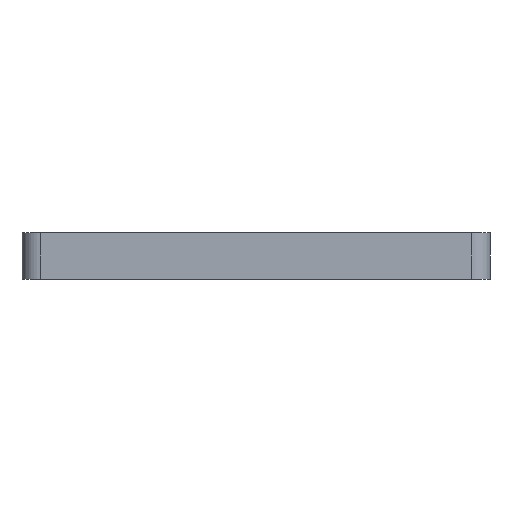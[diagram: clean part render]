
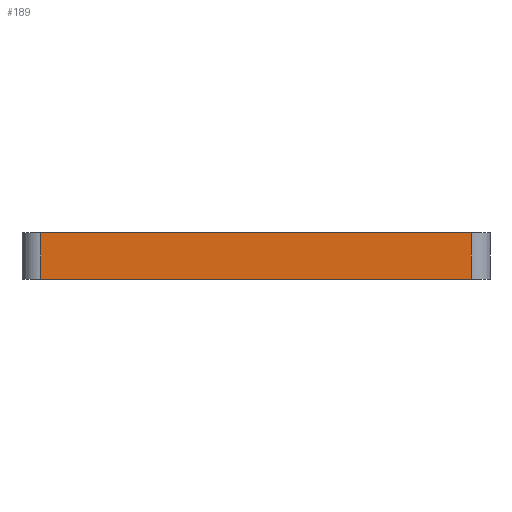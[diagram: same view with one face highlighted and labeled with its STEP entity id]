
A CAD part, front view. The second image highlights one B-rep face of the part: STEP entity #189.
In plain terms, the highlighted planar face has unit normal (0, -1, 0).
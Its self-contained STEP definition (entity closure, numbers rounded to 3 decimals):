
#18=CARTESIAN_POINT('',(4.0,0.0,0.0));
#19=CARTESIAN_POINT('',(4.0,0.0,10.0));
#20=VERTEX_POINT('',#18);
#21=VERTEX_POINT('',#19);
#22=CARTESIAN_POINT('',(96.0,0.0,0.0));
#23=CARTESIAN_POINT('',(96.0,0.0,10.0));
#24=VERTEX_POINT('',#22);
#25=VERTEX_POINT('',#23);
#50=CARTESIAN_POINT('',(4.0,0.0,0.0));
#51=DIRECTION('',(0.0,0.0,1.0));
#52=VECTOR('',#51,10.0);
#53=LINE('',#50,#52);
#54=EDGE_CURVE('',#20,#21,#53,.T.);
#55=CARTESIAN_POINT('',(96.0,0.0,0.0));
#56=DIRECTION('',(0.0,0.0,1.0));
#57=VECTOR('',#56,10.0);
#58=LINE('',#55,#57);
#59=EDGE_CURVE('',#24,#25,#58,.T.);
#90=CARTESIAN_POINT('',(4.0,0.0,0.0));
#91=DIRECTION('',(1.0,0.0,0.0));
#92=VECTOR('',#91,92.0);
#93=LINE('',#90,#92);
#94=EDGE_CURVE('',#20,#24,#93,.T.);
#95=CARTESIAN_POINT('',(4.0,0.0,10.0));
#96=DIRECTION('',(1.0,0.0,0.0));
#97=VECTOR('',#96,92.0);
#98=LINE('',#95,#97);
#99=EDGE_CURVE('',#21,#25,#98,.T.);
#178=CARTESIAN_POINT('',(4.0,0.0,0.0));
#179=DIRECTION('',(0.0,-1.0,0.0));
#180=DIRECTION('',(1.0,0.0,0.0));
#181=AXIS2_PLACEMENT_3D('',#178,#179,#180);
#182=PLANE('',#181);
#183=ORIENTED_EDGE('',*,*,#94,.T.);
#184=ORIENTED_EDGE('',*,*,#59,.T.);
#185=ORIENTED_EDGE('',*,*,#99,.F.);
#186=ORIENTED_EDGE('',*,*,#54,.F.);
#187=EDGE_LOOP('',(#183,#184,#185,#186));
#188=FACE_OUTER_BOUND('',#187,.T.);
#189=ADVANCED_FACE('',(#188),#182,.T.);
